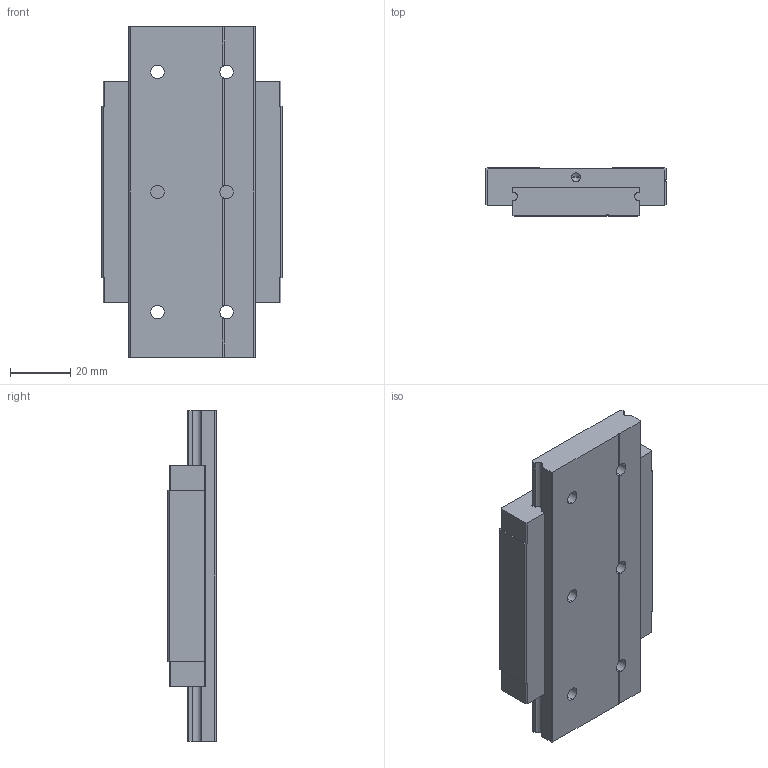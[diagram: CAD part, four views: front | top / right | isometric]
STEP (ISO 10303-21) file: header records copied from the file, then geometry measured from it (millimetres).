
FILE_DESCRIPTION((''),'2;1');
FILE_NAME('MGW15H_ASM','2008-07-11T',('minyao'),(''),'PRO/ENGINEER BY PARAMETRIC TECHNOLOGY CORPORATION, 2004360','PRO/ENGINEER BY PARAMETRIC TECHNOLOGY CORPORATION, 2004360','');
FILE_SCHEMA(('CONFIG_CONTROL_DESIGN'));
Length unit declared in the file: millimetre
Products named in the file (4): MANIFOLD_SOLID_BREP_95; MANIFOLD_SOLID_BREP_96; SAND94F7H95L_ASM; MGW15H_ASM
Assembly tree (3 placements, depth 3):
  MGW15H_ASM
    SAND94F7H95L_ASM
      MANIFOLD_SOLID_BREP_95
      MANIFOLD_SOLID_BREP_96
Bounding box: 60 x 16 x 110 mm (x, y, z)
Volume: 77382.6 mm3; surface area: 26463.8 mm2
Topology: 2 solids, 2 shells, 113 faces, 321 edges, 209 vertices
Faces by surface type: plane 56, cylinder 45, cone 12
Entity records: 3812 total; most frequent: CARTESIAN_POINT 694, DIRECTION 652, ORIENTED_EDGE 618, EDGE_CURVE 309, AXIS2_PLACEMENT_3D 227, VERTEX_POINT 209, VECTOR 198, LINE 198
